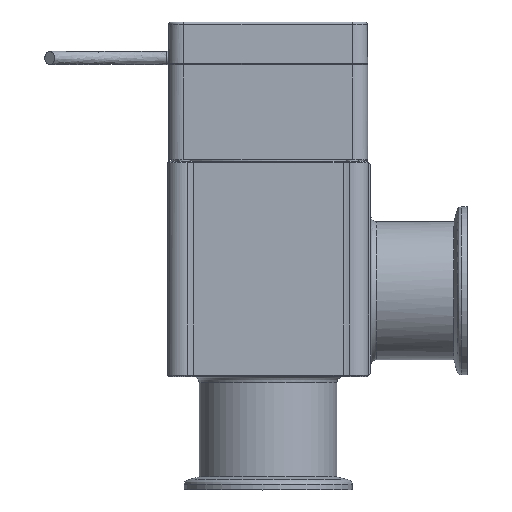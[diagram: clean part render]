
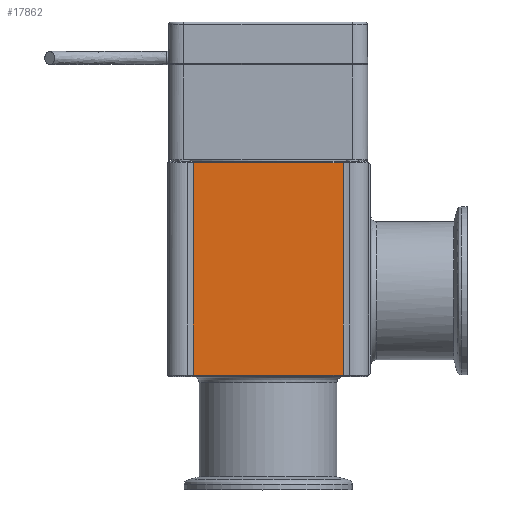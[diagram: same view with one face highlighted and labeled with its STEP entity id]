
A CAD part, top view. The second image highlights one B-rep face of the part: STEP entity #17862.
In plain terms, the highlighted free-form (B-spline) face has degree [1, 1] with [2, 2] control points.
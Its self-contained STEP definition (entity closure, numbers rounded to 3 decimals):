
#17586=CARTESIAN_POINT('V97',(-24.485,
   103.8,32.5));
#17587=VERTEX_POINT('V97',#17586);
#17630=CARTESIAN_POINT('V96',(24.485,103.8,
   32.5));
#17631=VERTEX_POINT('V96',#17630);
#17637=CARTESIAN_POINT('E128',(24.485,
   103.8,32.5));
#17638=CARTESIAN_POINT('E128',(-24.485,
   103.8,32.5));
#17639=B_SPLINE_CURVE_WITH_KNOTS('E128',1,(#17637,#17638),
   .POLYLINE_FORM.,.F.,.U.,(2,2),(2.0,88.568),
   .UNSPECIFIED.);
#17640=EDGE_CURVE('E128',#17631,#17587,#17639,.T.);
#17816=CARTESIAN_POINT('V95',(24.485,34.4,
   32.5));
#17817=VERTEX_POINT('V95',#17816);
#17831=CARTESIAN_POINT('E127',(24.485,34.4,
   32.5));
#17832=CARTESIAN_POINT('E127',(24.485,
   103.8,32.5));
#17833=B_SPLINE_CURVE_WITH_KNOTS('E127',1,(#17831,#17832),
   .POLYLINE_FORM.,.F.,.U.,(2,2),(2.202,
   37.19),.UNSPECIFIED.);
#17834=EDGE_CURVE('E127',#17817,#17631,#17833,.T.);
#17841=CARTESIAN_POINT('F42',(-25.742,33.,
   32.5));
#17842=CARTESIAN_POINT('F42',(25.742,33.,
   32.5));
#17843=CARTESIAN_POINT('F42',(-25.742,
   107.7,32.5));
#17844=CARTESIAN_POINT('F42',(25.742,107.7,
   32.5));
#17845=B_SPLINE_SURFACE_WITH_KNOTS('F42',1,1,((#17841,#17843),(
   #17842,#17844)),.PLANE_SURF.,.F.,.F.,.U.,(2,2),(2,2),(0.0,1.0),
   (0.699,2.15),.UNSPECIFIED.);
#17846=CARTESIAN_POINT('V94',(-24.485,34.4,
   32.5));
#17847=VERTEX_POINT('V94',#17846);
#17848=CARTESIAN_POINT('E126',(-24.485,
   34.4,32.5));
#17849=CARTESIAN_POINT('E126',(24.485,34.4,
   32.5));
#17850=B_SPLINE_CURVE_WITH_KNOTS('E126',1,(#17848,#17849),
   .POLYLINE_FORM.,.F.,.U.,(2,2),(2.0,88.568),
   .UNSPECIFIED.);
#17851=EDGE_CURVE('E126',#17847,#17817,#17850,.T.);
#17852=ORIENTED_EDGE('E126',*,*,#17851,.F.);
#17853=CARTESIAN_POINT('E129',(-24.485,
   103.8,32.5));
#17854=CARTESIAN_POINT('E129',(-24.485,
   34.4,32.5));
#17855=B_SPLINE_CURVE_WITH_KNOTS('E129',1,(#17853,#17854),
   .POLYLINE_FORM.,.F.,.U.,(2,2),(2.202,
   37.19),.UNSPECIFIED.);
#17856=EDGE_CURVE('E129',#17587,#17847,#17855,.T.);
#17857=ORIENTED_EDGE('E129',*,*,#17856,.F.);
#17858=ORIENTED_EDGE('E128',*,*,#17640,.F.);
#17859=ORIENTED_EDGE('E127',*,*,#17834,.F.);
#17860=EDGE_LOOP('F42',(#17852,#17857,#17858,#17859));
#17861=FACE_OUTER_BOUND('F42',#17860,.F.);
#17862=ADVANCED_FACE('F42',(#17861),#17845,.T.);
